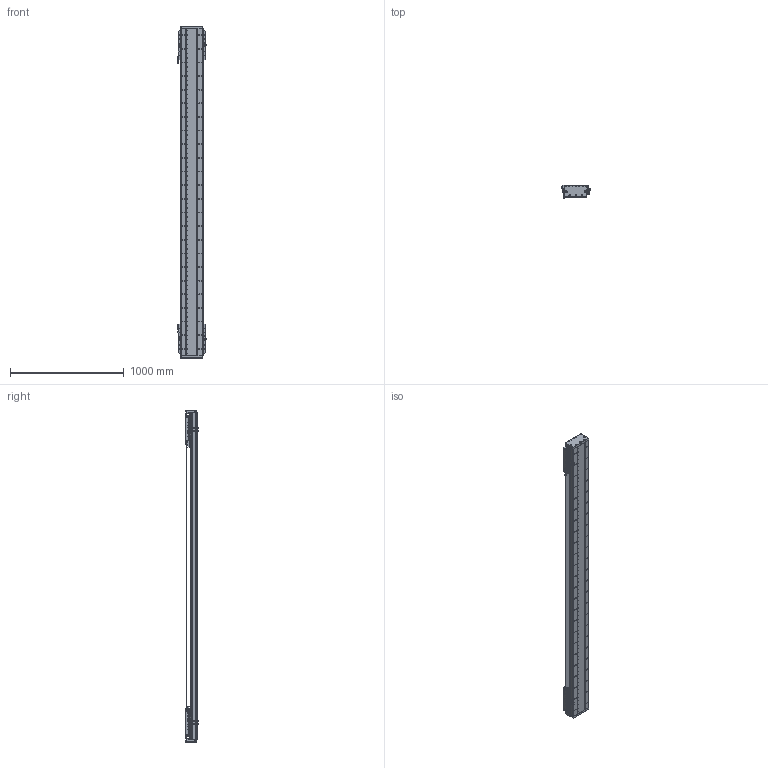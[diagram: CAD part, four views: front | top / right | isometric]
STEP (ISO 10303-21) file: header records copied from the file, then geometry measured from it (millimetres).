
FILE_DESCRIPTION (( 'STEP AP203' ), '1' );
FILE_NAME ('DA-C195-2-C3-T2300-C010-0.2 眻盄萇儂.STEP', '2025-08-15T00:49:25', ( '' ), ( '' ), 'SwSTEP 2.0', 'SolidWorks 2019', '' );
FILE_SCHEMA (( 'CONFIG_CONTROL_DESIGN' ));
Length unit declared in the file: millimetre
Products named in the file (19): DA195詩湍裔啣; DKW168-HXJ-ZJ-00 笢潔滅袉砎蝶; DKW-GYP-ZJ-00 笢潔嫖萇覜茼え; PM-T45ㄗ侂狟ㄘ; PM-Y65嫖萇羲壽郪璃; IU-CU195-L-00 菁釱(L2880); MS200 棠掑喜S315-T240; DA165-GYP-00 光电感应片(默认); DA195詩湍郪璃; 葩璃 DA95-GT-T-00; DA95-HXJ-00 遣喳砎蝶; LMT黍杅芛; DA-C195-2-C3-T2300-C010-0.2 眻盄萇儂; DKW-KGZ-ZJ-00 中间光电开关支架; IU-CU195-L 菁釱絳寢; DA195詩湍菜輸; DA-C195-GD-DB-H-00 傷啣; CU195-C3賑輸-俋楷; DA195詩湍嶺輸
Assembly tree (37 placements, depth 3):
  DA-C195-2-C3-T2300-C010-0.2 眻盄萇儂
    DA195詩湍郪璃
      DA195詩湍菜輸  x2
      DA195詩湍裔啣
      DA195詩湍嶺輸  x2
      DA95-HXJ-00 遣喳砎蝶  x8
      DA-C195-GD-DB-H-00 傷啣  x2
    IU-CU195-L 菁釱絳寢
      IU-CU195-L-00 菁釱(L2880)
      葩璃 DA95-GT-T-00  x4
    LMT黍杅芛  x2
    MS200 棠掑喜S315-T240
    PM-T45ㄗ侂狟ㄘ  x4
    DA165-GYP-00 光电感应片(默认)  x2
    PM-Y65嫖萇羲壽郪璃
    DKW168-HXJ-ZJ-00 笢潔滅袉砎蝶
    DKW-GYP-ZJ-00 笢潔嫖萇覜茼え
    DKW-KGZ-ZJ-00 中间光电开关支架
    CU195-C3賑輸-俋楷  x2
Bounding box: 258.2 x 115.45 x 2920 mm (x, y, z)
Volume: 18534279.5 mm3; surface area: 5342832.5 mm2
Topology: 154 solids, 218 shells, 7009 faces, 18879 edges, 11781 vertices
Faces by surface type: cylinder 3402, plane 2555, cone 884, torus 88, sphere 72, bspline 8
Entity records: 155803 total; most frequent: CARTESIAN_POINT 42349, ORIENTED_EDGE 23774, DIRECTION 22560, EDGE_CURVE 11887, AXIS2_PLACEMENT_3D 8317, VERTEX_POINT 7706, VECTOR 5926, LINE 5926
